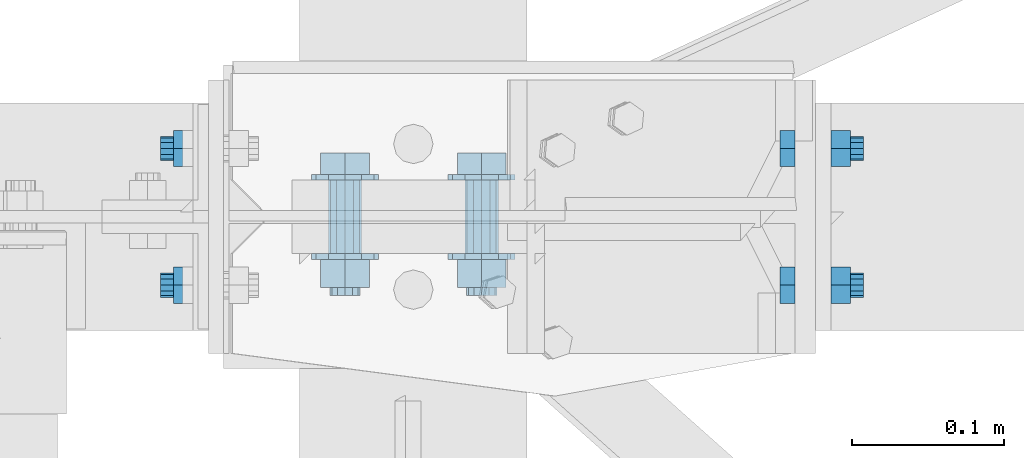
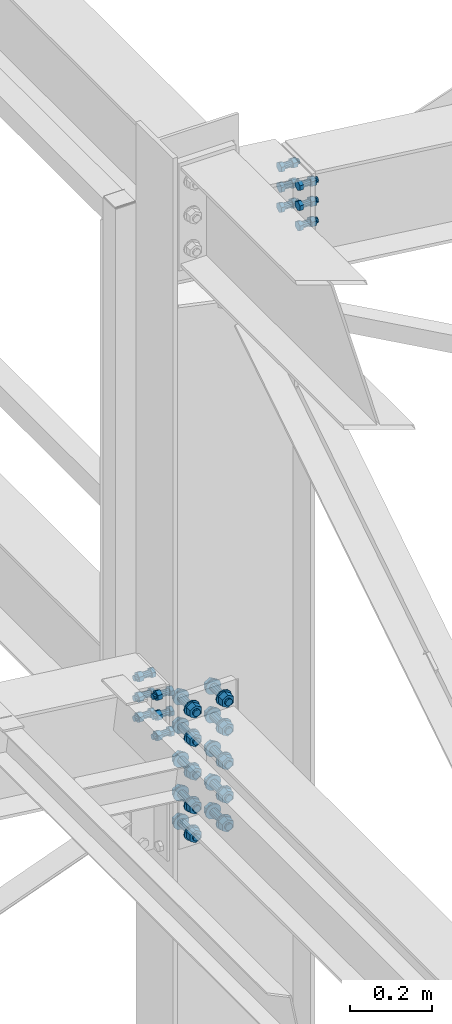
# One storey, part 295 of 3134: 3 mechanical fasteners, 2 elements without a shape of their own.
"""IFC2X3 building model written with IfcOpenShell, lengths in millimetres."""

from ifc_helpers import new_model, si_unit, frame, origin_with_axes, place, context, subcontext, project, spatial, faceted_brep, source, transform, mapped, material, type_object, element, aggregate, save


model = new_model("IFC2X3")

# Units and contexts
model_context = context("Model", 3, precision=1e-05, world=origin_with_axes())
body_context = subcontext(model_context, "Body", "Model", "MODEL_VIEW")
ifc_project = project(units=[si_unit("LENGTHUNIT", "METRE", prefix="MILLI"), si_unit("AREAUNIT", "SQUARE_METRE"), si_unit("VOLUMEUNIT", "CUBIC_METRE"), si_unit("MASSUNIT", "GRAM", prefix="KILO"), si_unit("TIMEUNIT", "SECOND"), si_unit("PLANEANGLEUNIT", "RADIAN"), si_unit("SOLIDANGLEUNIT", "STERADIAN"), si_unit("THERMODYNAMICTEMPERATUREUNIT", "DEGREE_CELSIUS"), si_unit("LUMINOUSINTENSITYUNIT", "LUMEN")], contexts=[model_context])

# Site, building, storey
site_placement = place(None, origin_with_axes())
site = spatial("IfcSite", under=ifc_project, at=site_placement, CompositionType="ELEMENT")
building_placement = place(site_placement, origin_with_axes())
building = spatial("IfcBuilding", under=site, at=building_placement, Name="Undefined", CompositionType="ELEMENT")
storey_placement = place(building_placement, origin_with_axes())
storey = spatial("IfcBuildingStorey", under=building, at=storey_placement, Name="Undefined", CompositionType="ELEMENT", Elevation=0.0)

# Assembly, mechanical fasteners
assembly_1_placement = place(storey_placement, origin_with_axes())
assembly_1 = element("IfcElementAssembly", 1, at=assembly_1_placement, inside=storey, Name="IPE400", AssemblyPlace="NOTDEFINED", PredefinedType="RIGID_FRAME")
ifc_material_1 = material(Name="8.8")
mechanical_fastener_type = type_object("IfcMechanicalFastenerType", Name="Bolt assembly")
shared_shape_1 = source(origin_with_axes(), body_context, "Body", "Brep", [
    faceted_brep([(13.856406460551, -33.499999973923, 0.0), (6.92820323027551, -33.499999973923, 12.0), (-6.92820323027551, -33.499999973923, 12.0), (-13.856406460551, -33.499999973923, 1.69692038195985e-15), (-6.92820323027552, -33.499999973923, -12.0), (6.9282032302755, -33.499999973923, -12.0), (6.9282032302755, -23.499999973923, -12.0), (-6.92820323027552, -23.499999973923, -12.0), (-13.856406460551, -23.499999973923, 1.69692038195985e-15), (-6.92820323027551, -23.499999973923, 12.0), (6.92820323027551, -23.499999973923, 12.0), (13.856406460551, -23.499999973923, 0.0), (8.0, -23.499999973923, 0.0), (6.92820323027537, -23.499999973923, 4.00000000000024), (3.99999999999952, -23.499999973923, 6.92820323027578), (-8.29068785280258e-13, -23.499999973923, 8.0), (-4.00000000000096, -23.499999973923, 6.92820323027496), (-6.9282032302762, -23.499999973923, 3.99999999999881), (-8.0, -23.499999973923, -1.65813757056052e-12), (-6.92820323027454, -23.499999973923, -4.00000000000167), (-3.99999999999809, -23.499999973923, -6.92820323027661), (2.47832457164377e-12, -23.499999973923, -8.0), (4.00000000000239, -23.499999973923, -6.92820323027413), (6.92820323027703, -23.499999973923, -3.99999999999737), (6.92820323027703, 21.500000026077, -3.99999999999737), (4.00000000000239, 21.500000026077, -6.92820323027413), (2.47832457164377e-12, 21.500000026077, -8.0), (-3.99999999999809, 21.500000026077, -6.92820323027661), (-6.92820323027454, 21.500000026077, -4.00000000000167), (-8.0, 21.500000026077, -1.65813757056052e-12), (-6.9282032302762, 21.500000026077, 3.99999999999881), (-4.00000000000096, 21.500000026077, 6.92820323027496), (-8.29068785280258e-13, 21.500000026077, 8.0), (3.99999999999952, 21.500000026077, 6.92820323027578), (6.92820323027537, 21.500000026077, 4.00000000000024), (8.0, 21.500000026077, 0.0), (13.856406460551, 0.0, 0.0), (6.92820323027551, 0.0, 12.0), (-6.92820323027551, 0.0, 12.0), (-13.856406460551, 0.0, 1.69692038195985e-15), (-6.92820323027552, 0.0, -12.0), (6.9282032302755, 0.0, -12.0), (6.9282032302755, 12.9999996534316, -12.0), (-6.92820323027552, 12.9999996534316, -12.0), (-13.856406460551, 12.9999996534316, 1.69692038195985e-15), (-6.92820323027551, 12.9999996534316, 12.0), (6.92820323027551, 12.9999996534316, 12.0), (13.856406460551, 12.9999996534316, 0.0)], [[[0, 1, 2, 3, 4, 5]], [[6, 7, 8, 9, 10, 11]], [[0, 11, 10, 1]], [[1, 10, 9, 2]], [[2, 9, 8, 3]], [[3, 8, 7, 4]], [[4, 7, 6, 5]], [[5, 6, 11, 0]], [[12, 13, 14, 15, 16, 17, 18, 19, 20, 21, 22, 23]], [[24, 25, 26, 27, 28, 29, 30, 31, 32, 33, 34, 35]], [[12, 35, 34, 13]], [[13, 34, 33, 14]], [[14, 33, 32, 15]], [[15, 32, 31, 16]], [[16, 31, 30, 17]], [[17, 30, 29, 18]], [[18, 29, 28, 19]], [[19, 28, 27, 20]], [[20, 27, 26, 21]], [[21, 26, 25, 22]], [[22, 25, 24, 23]], [[23, 24, 35, 12]], [[36, 37, 38, 39, 40, 41]], [[42, 43, 44, 45, 46, 47]], [[36, 47, 46, 37]], [[37, 46, 45, 38]], [[38, 45, 44, 39]], [[39, 44, 43, 40]], [[40, 43, 42, 41]], [[41, 42, 47, 36]]]),
    faceted_brep([(9.0, -10.1000003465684, 0.0), (7.79422863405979, -10.1000003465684, 4.50000000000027), (4.49999999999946, -10.1000003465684, 7.79422863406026), (-9.3270238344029e-13, -10.1000003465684, 9.0), (-4.50000000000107, -10.1000003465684, 7.79422863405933), (-7.79422863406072, -10.1000003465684, 4.49999999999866), (-9.0, -10.1000003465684, -1.86540476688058e-12), (-7.79422863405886, -10.1000003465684, -4.50000000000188), (-4.49999999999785, -10.1000003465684, -7.79422863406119), (2.78811514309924e-12, -10.1000003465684, -9.0), (4.50000000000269, -10.1000003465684, -7.7942286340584), (7.79422863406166, -10.1000003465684, -4.49999999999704), (7.79422863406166, -3.46568413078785e-07, -4.49999999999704), (4.50000000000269, -3.46568413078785e-07, -7.7942286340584), (2.78811514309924e-12, -3.46568413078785e-07, -9.0), (-4.49999999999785, -3.46568413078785e-07, -7.79422863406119), (-7.79422863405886, -3.46568413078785e-07, -4.50000000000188), (-9.0, -3.46568413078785e-07, -1.86540476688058e-12), (-7.79422863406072, -3.46568413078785e-07, 4.49999999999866), (-4.50000000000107, -3.46568413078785e-07, 7.79422863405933), (-9.3270238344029e-13, -3.46568413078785e-07, 9.0), (4.49999999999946, -3.46568413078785e-07, 7.79422863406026), (7.79422863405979, -3.46568413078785e-07, 4.50000000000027), (9.0, -3.46568413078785e-07, 0.0), (9.0, -23.399999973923, 0.0), (7.79422863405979, -23.399999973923, 4.50000000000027), (4.49999999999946, -23.399999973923, 7.79422863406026), (-9.3270238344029e-13, -23.399999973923, 9.0), (-4.50000000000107, -23.399999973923, 7.79422863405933), (-7.79422863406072, -23.399999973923, 4.49999999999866), (-9.0, -23.399999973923, -1.86540476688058e-12), (-7.79422863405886, -23.399999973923, -4.50000000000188), (-4.49999999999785, -23.399999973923, -7.79422863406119), (2.78811514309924e-12, -23.399999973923, -9.0), (4.50000000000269, -23.399999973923, -7.7942286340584), (7.79422863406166, -23.399999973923, -4.49999999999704), (7.79422863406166, -9.89999997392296, -4.49999999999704), (4.50000000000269, -9.89999997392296, -7.7942286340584), (2.78811514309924e-12, -9.89999997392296, -9.0), (-4.49999999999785, -9.89999997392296, -7.79422863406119), (-7.79422863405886, -9.89999997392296, -4.50000000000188), (-9.0, -9.89999997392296, -1.86540476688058e-12), (-7.79422863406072, -9.89999997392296, 4.49999999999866), (-4.50000000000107, -9.89999997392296, 7.79422863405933), (-9.3270238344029e-13, -9.89999997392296, 9.0), (4.49999999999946, -9.89999997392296, 7.79422863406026), (7.79422863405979, -9.89999997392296, 4.50000000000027), (9.0, -9.89999997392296, 0.0)], [[[0, 1, 2, 3, 4, 5, 6, 7, 8, 9, 10, 11]], [[12, 13, 14, 15, 16, 17, 18, 19, 20, 21, 22, 23]], [[0, 23, 22, 1]], [[1, 22, 21, 2]], [[2, 21, 20, 3]], [[3, 20, 19, 4]], [[4, 19, 18, 5]], [[5, 18, 17, 6]], [[6, 17, 16, 7]], [[7, 16, 15, 8]], [[8, 15, 14, 9]], [[9, 14, 13, 10]], [[10, 13, 12, 11]], [[11, 12, 23, 0]], [[24, 25, 26, 27, 28, 29, 30, 31, 32, 33, 34, 35]], [[36, 37, 38, 39, 40, 41, 42, 43, 44, 45, 46, 47]], [[24, 47, 46, 25]], [[25, 46, 45, 26]], [[26, 45, 44, 27]], [[27, 44, 43, 28]], [[28, 43, 42, 29]], [[29, 42, 41, 30]], [[30, 41, 40, 31]], [[31, 40, 39, 32]], [[32, 39, 38, 33]], [[33, 38, 37, 34]], [[34, 37, 36, 35]], [[35, 36, 47, 24]]]),
])
mechanical_fastener_1_placement = place(assembly_1_placement, frame((55730.0, 61050.0, 4360.71053041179), z_axis=(0.0, 1.0, 0.0), x_axis=(0.0, 0.0, -1.0)))
mechanical_fastener_1 = element("IfcMechanicalFastener", 2, at=mechanical_fastener_1_placement, type_object=mechanical_fastener_type, material=ifc_material_1, Name="Bolt assembly", NominalDiameter=16.0, NominalLength=45.0, context=body_context, shape_type="MappedRepresentation", body=[
    mapped(shared_shape_1, transform((0.0, 0.0, -45.0))),
    mapped(shared_shape_1, transform((60.0, 0.0, -45.0))),
    mapped(shared_shape_1, transform((120.0, 0.0, -45.0))),
    mapped(shared_shape_1, transform((0.0, 0.0, 45.0))),
    mapped(shared_shape_1, transform((60.0, 0.0, 45.0))),
    mapped(shared_shape_1, transform((120.0, 0.0, 45.0))),
])
mechanical_fastener_2_placement = place(assembly_1_placement, frame((56150.0000003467, 61050.0, 5615.41113576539), z_axis=(0.0, 1.0, 0.0), x_axis=(0.0, 0.0, 1.0)))
mechanical_fastener_2 = element("IfcMechanicalFastener", 3, at=mechanical_fastener_2_placement, type_object=mechanical_fastener_type, material=ifc_material_1, Name="Bolt assembly", NominalDiameter=16.0, NominalLength=45.0, context=body_context, shape_type="MappedRepresentation", body=[
    mapped(shared_shape_1, transform((0.0, 0.0, -45.0))),
    mapped(shared_shape_1, transform((60.0, 0.0, -45.0))),
    mapped(shared_shape_1, transform((120.0, 0.0, -45.0))),
    mapped(shared_shape_1, transform((0.0, 0.0, 45.0))),
    mapped(shared_shape_1, transform((60.0, 0.0, 45.0))),
    mapped(shared_shape_1, transform((120.0, 0.0, 45.0))),
])
aggregate(assembly_1, [mechanical_fastener_1, mechanical_fastener_2])

# Assembly, mechanical fastener
assembly_2_placement = place(storey_placement, origin_with_axes())
assembly_2 = element("IfcElementAssembly", 4, at=assembly_2_placement, inside=storey, Name="300", AssemblyPlace="NOTDEFINED", PredefinedType="RIGID_FRAME")
ifc_material_2 = material(Name="HR10.9")
shared_shape_2 = source(origin_with_axes(), body_context, "Body", "Brep", [
    faceted_brep([(18.475208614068, -66.1999996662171, 0.0), (9.23760430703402, -66.1999996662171, 16.0), (-9.23760430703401, -66.1999996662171, 16.0), (-18.475208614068, -66.1999996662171, 2.2625605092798e-15), (-9.23760430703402, -66.1999996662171, -16.0), (9.237604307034, -66.1999996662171, -16.0), (9.237604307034, -52.3000000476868, -16.0), (-9.23760430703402, -52.3000000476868, -16.0), (-18.475208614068, -52.3000000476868, 2.2625605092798e-15), (-9.23760430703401, -52.3000000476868, 16.0), (9.23760430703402, -52.3000000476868, 16.0), (18.475208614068, -52.3000000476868, 0.0), (10.0, -52.3000000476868, 0.0), (8.66025403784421, -52.3000000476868, 5.0000000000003), (4.9999999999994, -52.3000000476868, 8.66025403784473), (-1.03633598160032e-12, -52.3000000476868, 10.0), (-5.00000000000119, -52.3000000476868, 8.6602540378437), (-8.66025403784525, -52.3000000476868, 4.99999999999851), (-10.0, -52.3000000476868, -2.07267196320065e-12), (-8.66025403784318, -52.3000000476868, -5.00000000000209), (-4.99999999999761, -52.3000000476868, -8.66025403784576), (3.09790571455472e-12, -52.3000000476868, -10.0), (5.00000000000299, -52.3000000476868, -8.66025403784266), (8.66025403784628, -52.3000000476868, -4.99999999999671), (8.66025403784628, 27.6999999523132, -4.99999999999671), (5.00000000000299, 27.6999999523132, -8.66025403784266), (3.09790571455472e-12, 27.6999999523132, -10.0), (-4.99999999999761, 27.6999999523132, -8.66025403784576), (-8.66025403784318, 27.6999999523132, -5.00000000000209), (-10.0, 27.6999999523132, -2.07267196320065e-12), (-8.66025403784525, 27.6999999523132, 4.99999999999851), (-5.00000000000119, 27.6999999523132, 8.6602540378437), (-1.03633598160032e-12, 27.6999999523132, 10.0), (4.9999999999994, 27.6999999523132, 8.66025403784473), (8.66025403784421, 27.6999999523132, 5.0000000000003), (10.0, 27.6999999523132, 0.0), (22.0, -52.3000000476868, 0.0), (19.0525588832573, -52.3000000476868, 11.0000000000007), (10.9999999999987, -52.3000000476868, 19.0525588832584), (-2.27993915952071e-12, -52.3000000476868, 22.0), (-11.0000000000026, -52.3000000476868, 19.0525588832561), (-19.0525588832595, -52.3000000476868, 10.9999999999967), (-22.0, -52.3000000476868, -4.55987831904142e-12), (-19.052558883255, -52.3000000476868, -11.0000000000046), (-10.9999999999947, -52.3000000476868, -19.0525588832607), (6.81539257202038e-12, -52.3000000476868, -22.0), (11.0000000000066, -52.3000000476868, -19.0525588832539), (19.0525588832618, -52.3000000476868, -10.9999999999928), (19.0525588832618, -48.6000000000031, -10.9999999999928), (11.0000000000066, -48.6000000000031, -19.0525588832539), (6.81539257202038e-12, -48.6000000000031, -22.0), (-10.9999999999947, -48.6000000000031, -19.0525588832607), (-19.052558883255, -48.6000000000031, -11.0000000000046), (-22.0, -48.6000000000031, -4.55987831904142e-12), (-19.0525588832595, -48.6000000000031, 10.9999999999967), (-11.0000000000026, -48.6000000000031, 19.0525588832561), (-2.27993915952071e-12, -48.6000000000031, 22.0), (10.9999999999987, -48.6000000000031, 19.0525588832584), (19.0525588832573, -48.6000000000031, 11.0000000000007), (22.0, -48.6000000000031, 0.0), (22.0, 0.0, 0.0), (19.0525588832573, 0.0, 11.0000000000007), (10.9999999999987, 0.0, 19.0525588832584), (-2.27993915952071e-12, 0.0, 22.0), (-11.0000000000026, 0.0, 19.0525588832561), (-19.0525588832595, 0.0, 10.9999999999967), (-22.0, 0.0, -4.55987831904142e-12), (-19.052558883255, 0.0, -11.0000000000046), (-10.9999999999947, 0.0, -19.0525588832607), (6.81539257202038e-12, 0.0, -22.0), (11.0000000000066, 0.0, -19.0525588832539), (19.0525588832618, 0.0, -10.9999999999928), (19.0525588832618, 3.70000004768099, -10.9999999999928), (11.0000000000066, 3.70000004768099, -19.0525588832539), (6.81539257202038e-12, 3.70000004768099, -22.0), (-10.9999999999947, 3.70000004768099, -19.0525588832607), (-19.052558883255, 3.70000004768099, -11.0000000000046), (-22.0, 3.70000004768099, -4.55987831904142e-12), (-19.0525588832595, 3.70000004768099, 10.9999999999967), (-11.0000000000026, 3.70000004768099, 19.0525588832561), (-2.27993915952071e-12, 3.70000004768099, 22.0), (10.9999999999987, 3.70000004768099, 19.0525588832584), (19.0525588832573, 3.70000004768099, 11.0000000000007), (22.0, 3.70000004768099, 0.0), (18.475208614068, 3.70000004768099, 0.0), (9.23760430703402, 3.70000004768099, 16.0), (-9.23760430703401, 3.70000004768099, 16.0), (-18.475208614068, 3.70000004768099, 2.2625605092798e-15), (-9.23760430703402, 3.70000004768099, -16.0), (9.237604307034, 3.70000004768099, -16.0), (9.237604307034, 22.2499992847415, -16.0), (-9.23760430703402, 22.2499992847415, -16.0), (-18.475208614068, 22.2499992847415, 2.2625605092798e-15), (-9.23760430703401, 22.2499992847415, 16.0), (9.23760430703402, 22.2499992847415, 16.0), (18.475208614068, 22.2499992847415, 0.0)], [[[0, 1, 2, 3, 4, 5]], [[6, 7, 8, 9, 10, 11]], [[0, 11, 10, 1]], [[1, 10, 9, 2]], [[2, 9, 8, 3]], [[3, 8, 7, 4]], [[4, 7, 6, 5]], [[5, 6, 11, 0]], [[12, 13, 14, 15, 16, 17, 18, 19, 20, 21, 22, 23]], [[24, 25, 26, 27, 28, 29, 30, 31, 32, 33, 34, 35]], [[12, 35, 34, 13]], [[13, 34, 33, 14]], [[14, 33, 32, 15]], [[15, 32, 31, 16]], [[16, 31, 30, 17]], [[17, 30, 29, 18]], [[18, 29, 28, 19]], [[19, 28, 27, 20]], [[20, 27, 26, 21]], [[21, 26, 25, 22]], [[22, 25, 24, 23]], [[23, 24, 35, 12]], [[36, 37, 38, 39, 40, 41, 42, 43, 44, 45, 46, 47]], [[48, 49, 50, 51, 52, 53, 54, 55, 56, 57, 58, 59]], [[36, 59, 58, 37]], [[37, 58, 57, 38]], [[38, 57, 56, 39]], [[39, 56, 55, 40]], [[40, 55, 54, 41]], [[41, 54, 53, 42]], [[42, 53, 52, 43]], [[43, 52, 51, 44]], [[44, 51, 50, 45]], [[45, 50, 49, 46]], [[46, 49, 48, 47]], [[47, 48, 59, 36]], [[60, 61, 62, 63, 64, 65, 66, 67, 68, 69, 70, 71]], [[72, 73, 74, 75, 76, 77, 78, 79, 80, 81, 82, 83]], [[60, 83, 82, 61]], [[61, 82, 81, 62]], [[62, 81, 80, 63]], [[63, 80, 79, 64]], [[64, 79, 78, 65]], [[65, 78, 77, 66]], [[66, 77, 76, 67]], [[67, 76, 75, 68]], [[68, 75, 74, 69]], [[69, 74, 73, 70]], [[70, 73, 72, 71]], [[71, 72, 83, 60]], [[84, 85, 86, 87, 88, 89]], [[90, 91, 92, 93, 94, 95]], [[84, 95, 94, 85]], [[85, 94, 93, 86]], [[86, 93, 92, 87]], [[87, 92, 91, 88]], [[88, 91, 90, 89]], [[89, 90, 95, 84]]]),
    faceted_brep([(11.0, -28.6000001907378, 0.0), (9.52627944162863, -28.6000001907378, 5.50000000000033), (5.49999999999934, -28.6000001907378, 9.5262794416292), (-1.13996957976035e-12, -28.6000001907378, 11.0), (-5.50000000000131, -28.6000001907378, 9.52627944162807), (-9.52627944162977, -28.6000001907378, 5.49999999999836), (-11.0, -28.6000001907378, -2.27993915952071e-12), (-9.5262794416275, -28.6000001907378, -5.5000000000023), (-5.49999999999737, -28.6000001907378, -9.52627944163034), (3.40769628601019e-12, -28.6000001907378, -11.0), (5.50000000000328, -28.6000001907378, -9.52627944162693), (9.52627944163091, -28.6000001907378, -5.49999999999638), (9.52627944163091, -20.0, -5.49999999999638), (5.50000000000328, -20.0, -9.52627944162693), (3.40769628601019e-12, -20.0, -11.0), (-5.49999999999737, -20.0, -9.52627944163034), (-9.5262794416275, -20.0, -5.5000000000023), (-11.0, -20.0, -2.27993915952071e-12), (-9.52627944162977, -20.0, 5.49999999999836), (-5.50000000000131, -20.0, 9.52627944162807), (-1.13996957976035e-12, -20.0, 11.0), (5.49999999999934, -20.0, 9.5262794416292), (9.52627944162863, -20.0, 5.50000000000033), (11.0, -20.0, 0.0), (11.0, -20.1000000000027, 0.0), (9.52627944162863, -20.1000000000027, 5.50000000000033), (5.49999999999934, -20.1000000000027, 9.5262794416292), (-1.13996957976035e-12, -20.1000000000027, 11.0), (-5.50000000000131, -20.1000000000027, 9.52627944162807), (-9.52627944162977, -20.1000000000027, 5.49999999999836), (-11.0, -20.1000000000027, -2.27993915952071e-12), (-9.5262794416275, -20.1000000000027, -5.5000000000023), (-5.49999999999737, -20.1000000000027, -9.52627944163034), (3.40769628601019e-12, -20.1000000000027, -11.0), (5.50000000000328, -20.1000000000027, -9.52627944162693), (9.52627944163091, -20.1000000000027, -5.49999999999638), (9.52627944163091, 0.0, -5.49999999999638), (5.50000000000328, 0.0, -9.52627944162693), (3.40769628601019e-12, 0.0, -11.0), (-5.49999999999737, 0.0, -9.52627944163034), (-9.5262794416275, 0.0, -5.5000000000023), (-11.0, 0.0, -2.27993915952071e-12), (-9.52627944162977, 0.0, 5.49999999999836), (-5.50000000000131, 0.0, 9.52627944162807), (-1.13996957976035e-12, 0.0, 11.0), (5.49999999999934, 0.0, 9.5262794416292), (9.52627944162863, 0.0, 5.50000000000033), (11.0, 0.0, 0.0), (11.0, -48.5000000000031, 0.0), (9.52627944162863, -48.5000000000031, 5.50000000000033), (5.49999999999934, -48.5000000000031, 9.5262794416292), (-1.13996957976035e-12, -48.5000000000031, 11.0), (-5.50000000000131, -48.5000000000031, 9.52627944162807), (-9.52627944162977, -48.5000000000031, 5.49999999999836), (-11.0, -48.5000000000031, -2.27993915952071e-12), (-9.5262794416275, -48.5000000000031, -5.5000000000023), (-5.49999999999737, -48.5000000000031, -9.52627944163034), (3.40769628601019e-12, -48.5000000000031, -11.0), (5.50000000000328, -48.5000000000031, -9.52627944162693), (9.52627944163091, -48.5000000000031, -5.49999999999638), (9.52627944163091, -28.5000000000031, -5.49999999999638), (5.50000000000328, -28.5000000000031, -9.52627944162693), (3.40769628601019e-12, -28.5000000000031, -11.0), (-5.49999999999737, -28.5000000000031, -9.52627944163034), (-9.5262794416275, -28.5000000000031, -5.5000000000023), (-11.0, -28.5000000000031, -2.27993915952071e-12), (-9.52627944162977, -28.5000000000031, 5.49999999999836), (-5.50000000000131, -28.5000000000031, 9.52627944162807), (-1.13996957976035e-12, -28.5000000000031, 11.0), (5.49999999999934, -28.5000000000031, 9.5262794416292), (9.52627944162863, -28.5000000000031, 5.50000000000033), (11.0, -28.5000000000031, 0.0)], [[[0, 1, 2, 3, 4, 5, 6, 7, 8, 9, 10, 11]], [[12, 13, 14, 15, 16, 17, 18, 19, 20, 21, 22, 23]], [[0, 23, 22, 1]], [[1, 22, 21, 2]], [[2, 21, 20, 3]], [[3, 20, 19, 4]], [[4, 19, 18, 5]], [[5, 18, 17, 6]], [[6, 17, 16, 7]], [[7, 16, 15, 8]], [[8, 15, 14, 9]], [[9, 14, 13, 10]], [[10, 13, 12, 11]], [[11, 12, 23, 0]], [[24, 25, 26, 27, 28, 29, 30, 31, 32, 33, 34, 35]], [[36, 37, 38, 39, 40, 41, 42, 43, 44, 45, 46, 47]], [[24, 47, 46, 25]], [[25, 46, 45, 26]], [[26, 45, 44, 27]], [[27, 44, 43, 28]], [[28, 43, 42, 29]], [[29, 42, 41, 30]], [[30, 41, 40, 31]], [[31, 40, 39, 32]], [[32, 39, 38, 33]], [[33, 38, 37, 34]], [[34, 37, 36, 35]], [[35, 36, 47, 24]], [[48, 49, 50, 51, 52, 53, 54, 55, 56, 57, 58, 59]], [[60, 61, 62, 63, 64, 65, 66, 67, 68, 69, 70, 71]], [[48, 71, 70, 49]], [[49, 70, 69, 50]], [[50, 69, 68, 51]], [[51, 68, 67, 52]], [[52, 67, 66, 53]], [[53, 66, 65, 54]], [[54, 65, 64, 55]], [[55, 64, 63, 56]], [[56, 63, 62, 57]], [[57, 62, 61, 58]], [[58, 61, 60, 59]], [[59, 60, 71, 48]]]),
])
mechanical_fastener_3_placement = place(assembly_2_placement, frame((55875.0, 61025.7, 4273.5), z_axis=(-1.0, 0.0, 0.0), x_axis=(0.0, 0.0, -1.0)))
mechanical_fastener_3 = element("IfcMechanicalFastener", 5, at=mechanical_fastener_3_placement, type_object=mechanical_fastener_type, material=ifc_material_2, Name="Bolt assembly", NominalDiameter=20.0, NominalLength=80.0, context=body_context, shape_type="MappedRepresentation", body=[
    mapped(shared_shape_2, transform((0.0, 0.0, -45.0))),
    mapped(shared_shape_2, transform((85.0, 0.0, -45.0))),
    mapped(shared_shape_2, transform((185.0, 0.0, -45.0))),
    mapped(shared_shape_2, transform((285.0, 0.0, -45.0))),
    mapped(shared_shape_2, transform((370.0, 0.0, -45.0))),
    mapped(shared_shape_2, transform((0.0, 0.0, 45.0))),
    mapped(shared_shape_2, transform((85.0, 0.0, 45.0))),
    mapped(shared_shape_2, transform((185.0, 0.0, 45.0))),
    mapped(shared_shape_2, transform((285.0, 0.0, 45.0))),
    mapped(shared_shape_2, transform((370.0, 0.0, 45.0))),
])
aggregate(assembly_2, [mechanical_fastener_3])

save(model, "model.ifc")
